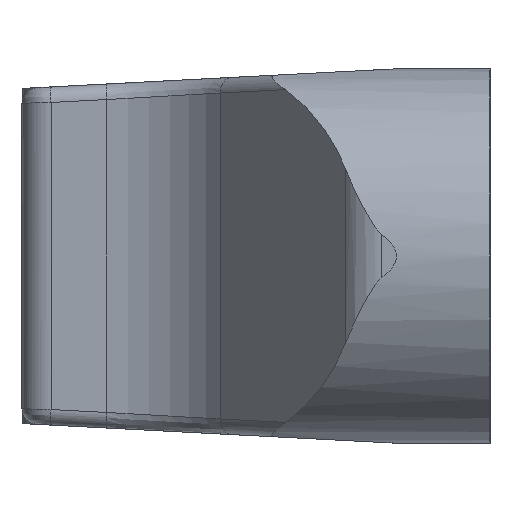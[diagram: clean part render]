
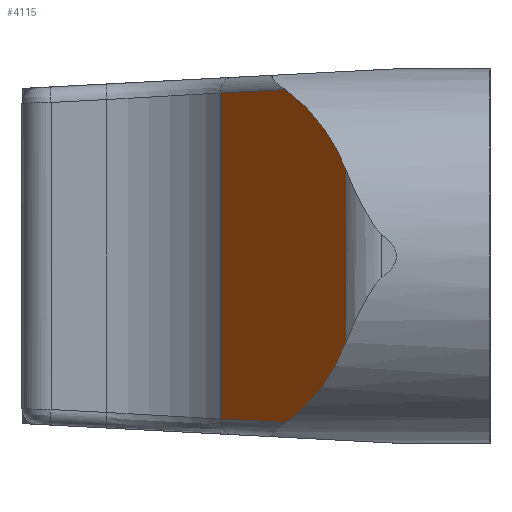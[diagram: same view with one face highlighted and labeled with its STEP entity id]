
A CAD part, left-side view. The second image highlights one B-rep face of the part: STEP entity #4115.
In plain terms, the highlighted planar face has unit normal (-0.602, 0.798, 0).
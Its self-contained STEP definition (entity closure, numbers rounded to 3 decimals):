
#274 = DIRECTION ( 'NONE',  ( -0.798, -0.602, 0.032 ) ) ;
#709 = VECTOR ( 'NONE', #4529, 1000. ) ;
#847 = LINE ( 'NONE', #4391, #3074 ) ;
#1064 = ORIENTED_EDGE ( 'NONE', *, *, #2339, .T. ) ;
#1430 = EDGE_CURVE ( 'NONE', #8188, #7648, #7847, .T. ) ;
#1494 =( BOUNDED_CURVE ( )  B_SPLINE_CURVE ( 3, ( #1735, #6629, #2562, #8243 ),
 .UNSPECIFIED., .F., .F. ) 
 B_SPLINE_CURVE_WITH_KNOTS ( ( 4, 4 ),
 ( 5.188, 5.802 ),
 .UNSPECIFIED. ) 
 CURVE ( )  GEOMETRIC_REPRESENTATION_ITEM ( )  RATIONAL_B_SPLINE_CURVE ( ( 1., 0.969, 0.969, 1. ) ) 
 REPRESENTATION_ITEM ( '' )  );
#1562 = AXIS2_PLACEMENT_3D ( 'NONE', #1899, #7595, #2721 ) ;
#1735 = CARTESIAN_POINT ( 'NONE',  ( 6.504, 7.12, 10.667 ) ) ;
#1899 = CARTESIAN_POINT ( 'NONE',  ( 12.05, 11.302, 12. ) ) ;
#1931 = VERTEX_POINT ( 'NONE', #2328 ) ;
#2328 = CARTESIAN_POINT ( 'NONE',  ( 12.05, 11.302, -10.448 ) ) ;
#2339 = EDGE_CURVE ( 'NONE', #5910, #1931, #6717, .T. ) ;
#2409 = EDGE_LOOP ( 'NONE', ( #1064, #4520, #3816, #3809, #7294, #6756 ) ) ;
#2501 = CARTESIAN_POINT ( 'NONE',  ( 4.285, 5.447, -9.524 ) ) ;
#2562 = CARTESIAN_POINT ( 'NONE',  ( 2.516, 4.113, 7.764 ) ) ;
#2621 = FACE_OUTER_BOUND ( 'NONE', #2409, .T. ) ;
#2629 = VECTOR ( 'NONE', #3560, 1000. ) ;
#2721 = DIRECTION ( 'NONE',  ( 0.798, 0.602, 0. ) ) ;
#2744 = CARTESIAN_POINT ( 'NONE',  ( 1.361, 3.242, -5.551 ) ) ;
#2902 = CARTESIAN_POINT ( 'NONE',  ( 6.504, 7.12, -10.667 ) ) ;
#3074 = VECTOR ( 'NONE', #274, 1000. ) ;
#3083 = EDGE_CURVE ( 'NONE', #5910, #8034, #847, .T. ) ;
#3369 = CARTESIAN_POINT ( 'NONE',  ( 1.361, 3.242, 5.551 ) ) ;
#3560 = DIRECTION ( 'NONE',  ( 0., 0., -1. ) ) ;
#3579 = CARTESIAN_POINT ( 'NONE',  ( 12.05, 11.302, 12. ) ) ;
#3809 = ORIENTED_EDGE ( 'NONE', *, *, #3821, .F. ) ;
#3816 = ORIENTED_EDGE ( 'NONE', *, *, #1430, .F. ) ;
#3821 = EDGE_CURVE ( 'NONE', #7515, #8188, #7980, .T. ) ;
#4115 = ADVANCED_FACE ( 'NONE', ( #2621 ), #8350, .F. ) ;
#4151 = CARTESIAN_POINT ( 'NONE',  ( 1.361, 3.242, -5.551 ) ) ;
#4391 = CARTESIAN_POINT ( 'NONE',  ( 12.026, 11.284, 10.449 ) ) ;
#4520 = ORIENTED_EDGE ( 'NONE', *, *, #8333, .F. ) ;
#4529 = DIRECTION ( 'NONE',  ( 0.798, 0.602, 0.032 ) ) ;
#4765 = CARTESIAN_POINT ( 'NONE',  ( 1.361, 3.242, 12. ) ) ;
#5074 = LINE ( 'NONE', #7763, #709 ) ;
#5418 = CARTESIAN_POINT ( 'NONE',  ( 12.05, 11.302, 10.448 ) ) ;
#5812 = CARTESIAN_POINT ( 'NONE',  ( 2.516, 4.113, -7.764 ) ) ;
#5910 = VERTEX_POINT ( 'NONE', #5418 ) ;
#6629 = CARTESIAN_POINT ( 'NONE',  ( 4.285, 5.447, 9.524 ) ) ;
#6717 = LINE ( 'NONE', #3579, #2629 ) ;
#6756 = ORIENTED_EDGE ( 'NONE', *, *, #3083, .F. ) ;
#7294 = ORIENTED_EDGE ( 'NONE', *, *, #8053, .F. ) ;
#7371 = CARTESIAN_POINT ( 'NONE',  ( 6.504, 7.12, -10.667 ) ) ;
#7515 = VERTEX_POINT ( 'NONE', #3369 ) ;
#7595 = DIRECTION ( 'NONE',  ( 0.602, -0.798, 0. ) ) ;
#7648 = VERTEX_POINT ( 'NONE', #2902 ) ;
#7763 = CARTESIAN_POINT ( 'NONE',  ( 8.684, 8.764, -10.581 ) ) ;
#7847 =( BOUNDED_CURVE ( )  B_SPLINE_CURVE ( 3, ( #4151, #5812, #2501, #7371 ),
 .UNSPECIFIED., .F., .T. ) 
 B_SPLINE_CURVE_WITH_KNOTS ( ( 4, 4 ),
 ( 0.481, 1.095 ),
 .UNSPECIFIED. ) 
 CURVE ( )  GEOMETRIC_REPRESENTATION_ITEM ( )  RATIONAL_B_SPLINE_CURVE ( ( 1., 0.969, 0.969, 1. ) ) 
 REPRESENTATION_ITEM ( '' )  );
#7980 = LINE ( 'NONE', #4765, #10133 ) ;
#8034 = VERTEX_POINT ( 'NONE', #8582 ) ;
#8053 = EDGE_CURVE ( 'NONE', #8034, #7515, #1494, .T. ) ;
#8188 = VERTEX_POINT ( 'NONE', #2744 ) ;
#8243 = CARTESIAN_POINT ( 'NONE',  ( 1.361, 3.242, 5.551 ) ) ;
#8333 = EDGE_CURVE ( 'NONE', #7648, #1931, #5074, .T. ) ;
#8350 = PLANE ( 'NONE',  #1562 ) ;
#8582 = CARTESIAN_POINT ( 'NONE',  ( 6.504, 7.12, 10.667 ) ) ;
#9636 = DIRECTION ( 'NONE',  ( 0., 0., -1. ) ) ;
#10133 = VECTOR ( 'NONE', #9636, 1000. ) ;
